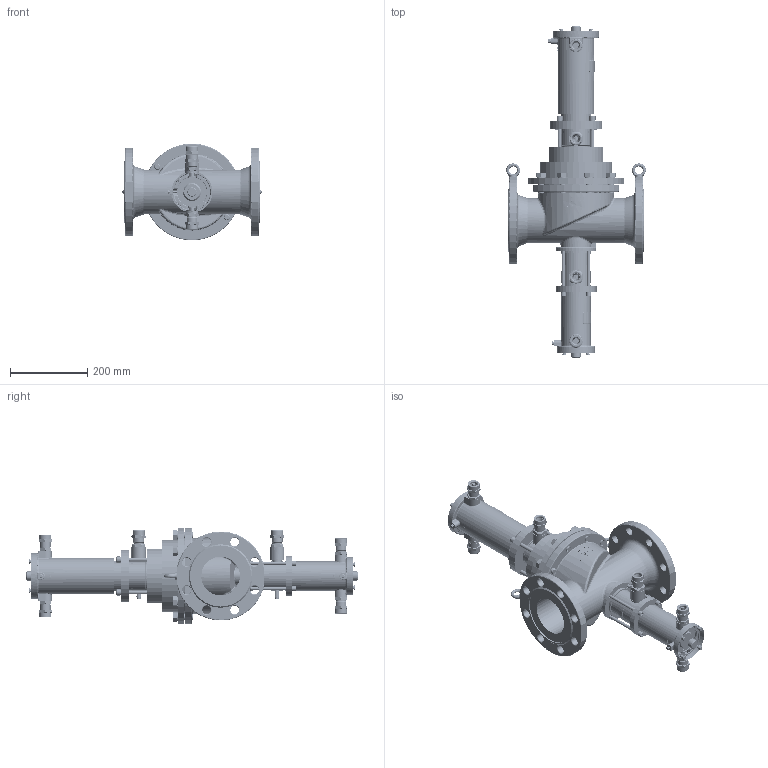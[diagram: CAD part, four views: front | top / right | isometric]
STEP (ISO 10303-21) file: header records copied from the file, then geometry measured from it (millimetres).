
FILE_DESCRIPTION(('STEP AP203'), '1');
FILE_NAME('ﾑﾅﾍﾑ-ﾏﾐ DN100_32PN25-ﾄﾊﾏ-ﾑﾂ.stp', '2020-03-17T05:28:35', ($), ($), 'ASCON STEP Converter 1.3', 'Kompas 3D', '');
FILE_SCHEMA(('CONFIG_CONTROL_DESIGN','SUPPORT_RESOURCE_SCHEMA'));
Length unit declared in the file: millimetre
Products named in the file (1): 1
Bounding box: 360.98 x 858.31 x 250 mm (x, y, z)
Volume: 6688705.5 mm3; surface area: 1347545.1 mm2
Topology: 5 solids, 57 shells, 4503 faces, 11807 edges, 7667 vertices
Faces by surface type: cylinder 2114, plane 1716, cone 326, extrusion 121, bspline 115, torus 107, sphere 4
Full cylindrical faces by diameter (mm): 2.459 x2, 3 x1, 3.5 x4, 4.134 x12, 4.917 x8, 5 x4, 5.3 x2, 6 x20, 6.5 x8, 6.647 x4, 8 x24, 8.2 x2, 8.376 x4, 8.5 x2, 9 x4, 10 x12, 11 x2, 12 x12, 13 x12, 14 x1, 16 x20, 16.004 x4, 17 x8, 17.5 x2, 18 x1, 18.632 x4, 20 x6, 22 x20, 22.376 x4, 23 x2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
Entity records: 214836 total; most frequent: CARTESIAN_POINT 102421, DIRECTION 23877, ORIENTED_EDGE 23498, EDGE_CURVE 11749, AXIS2_PLACEMENT_3D 9141, VERTEX_POINT 7667, VECTOR 5595, LINE 5474
